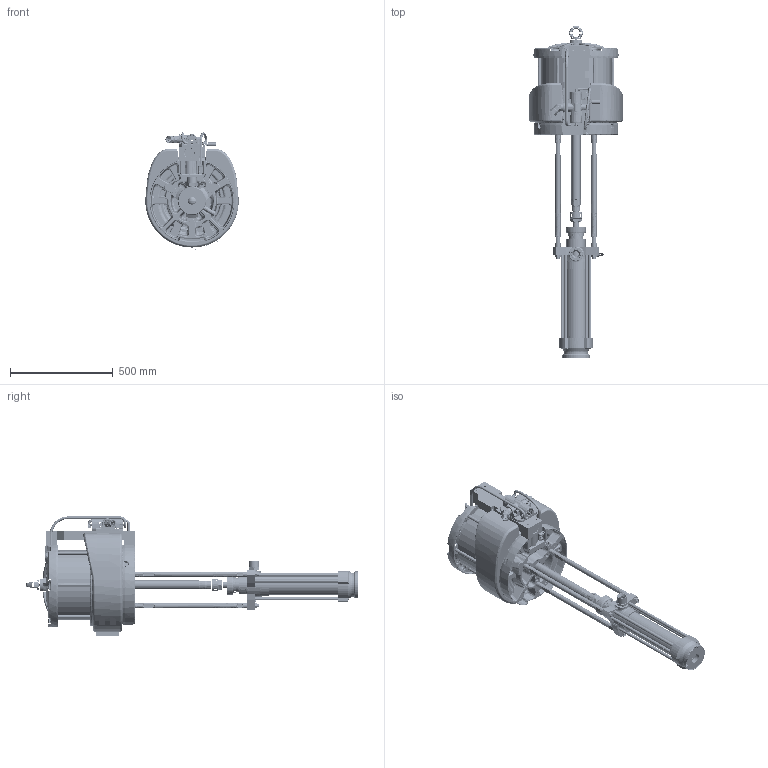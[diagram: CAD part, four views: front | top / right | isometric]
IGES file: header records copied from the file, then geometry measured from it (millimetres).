
Start section:  PTC IGES file: 25a452-en-d.igs
Global section: file name: 25a452-en-d.igs; native system: Creo Parametric by PTC Inc.; preprocessor: 2019030; author: qusrh3; organization: Unknown; date: 20200528.135258; units: inch
Bounding box: 454.59 x 1615.99 x 580.2 mm (x, y, z)
Surface area: 4599720.4 mm2 (no closed solid volume)
Topology: 0 solids, 0 shells, 3554 faces, 20415 edges, 20409 vertices
Faces by surface type: bspline 1816, revolution 1734, extrusion 4
